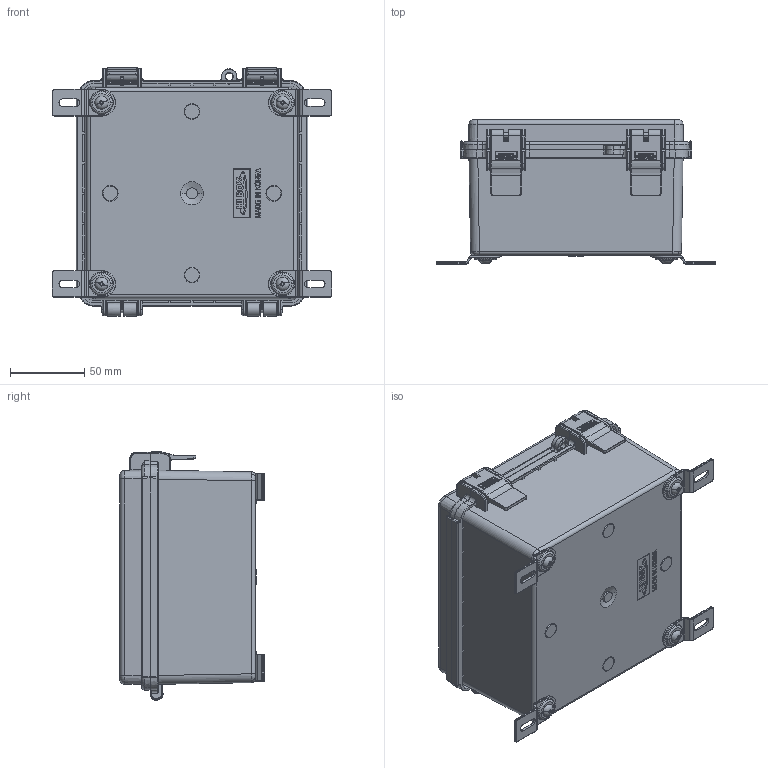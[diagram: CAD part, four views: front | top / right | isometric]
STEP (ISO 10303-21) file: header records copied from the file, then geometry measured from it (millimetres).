
FILE_DESCRIPTION (( 'STEP AP214' ), '1' );
FILE_NAME ('WH-10-03.STEP', '2024-11-26T20:12:05', ( '' ), ( '' ), 'SwSTEP 2.0', 'SolidWorks 2024', '' );
FILE_SCHEMA (( 'AUTOMOTIVE_DESIGN' ));
Length unit declared in the file: inch
Products named in the file (8): WH-10B_WH-10B-02; WH-90F_WH-90F; WH-02L_WH-02L-01; WH-10S_WH-10S-03; WH-90_WH-90; WH-10-03; WH-10C_WH-10C-03; SCREWS-005_SCREWS-005
Assembly tree (14 placements, depth 3):
  WH-10-03
    WH-10S_WH-10S-03
      WH-10B_WH-10B-02
      WH-10C_WH-10C-03
      WH-02L_WH-02L-01  x2
    WH-90_WH-90
      WH-90F_WH-90F  x4
      SCREWS-005_SCREWS-005  x4
Bounding box: 187.8 x 97.27 x 167.04 mm (x, y, z)
Volume: 312070.5 mm3; surface area: 230232.2 mm2
Topology: 17 solids, 17 shells, 3566 faces, 9012 edges, 5473 vertices
Faces by surface type: plane 1271, cylinder 920, bspline 836, torus 308, sphere 130, cone 101
Entity records: 93115 total; most frequent: CARTESIAN_POINT 33517, ORIENTED_EDGE 13506, DIRECTION 10510, EDGE_CURVE 6753, VERTEX_POINT 4242, VECTOR 3790, LINE 3790, AXIS2_PLACEMENT_3D 3360
